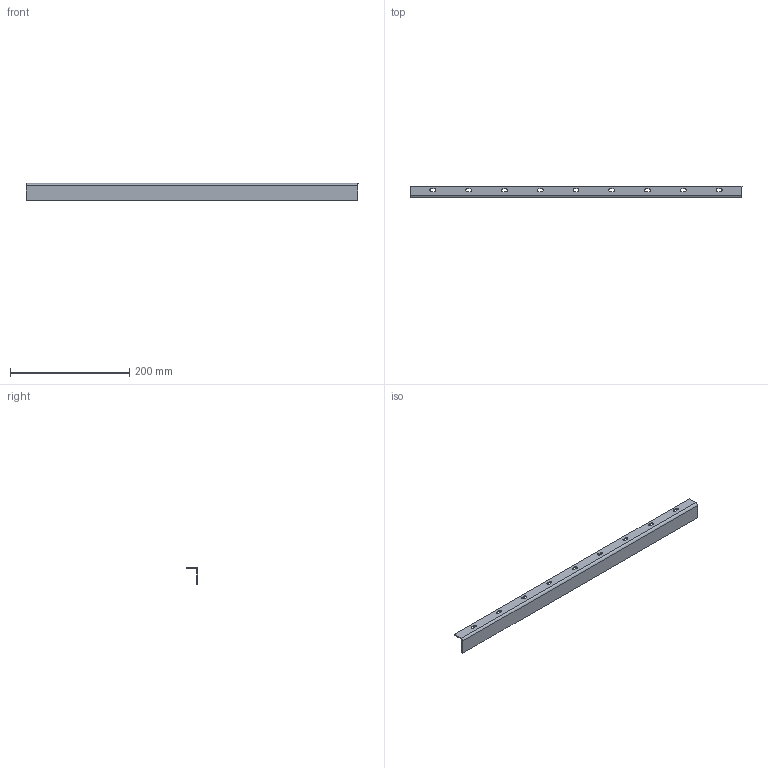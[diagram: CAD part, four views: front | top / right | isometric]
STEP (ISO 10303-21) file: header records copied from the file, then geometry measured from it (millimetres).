
FILE_DESCRIPTION (( 'STEP AP203' ), '1' );
FILE_NAME ('ORW-72.24.20.20.10.003 赶鎀鍧.STEP', '2025-10-13T13:18:56', ( '燴僽樥' ), ( '' ), 'SwSTEP 2.0', 'SolidWorks 2025', '' );
FILE_SCHEMA (( 'CONFIG_CONTROL_DESIGN' ));
Length unit declared in the file: millimetre
Products named in the file (1): ORW-72.24.20.20.10.003 Уголок
Bounding box: 557 x 20 x 29 mm (x, y, z)
Volume: 50120.2 mm3; surface area: 52993.8 mm2
Topology: 1 solids, 1 shells, 50 faces, 136 edges, 88 vertices
Faces by surface type: plane 30, cylinder 20
Entity records: 1687 total; most frequent: DIRECTION 278, CARTESIAN_POINT 275, ORIENTED_EDGE 272, EDGE_CURVE 136, VECTOR 96, LINE 96, AXIS2_PLACEMENT_3D 91, VERTEX_POINT 88
